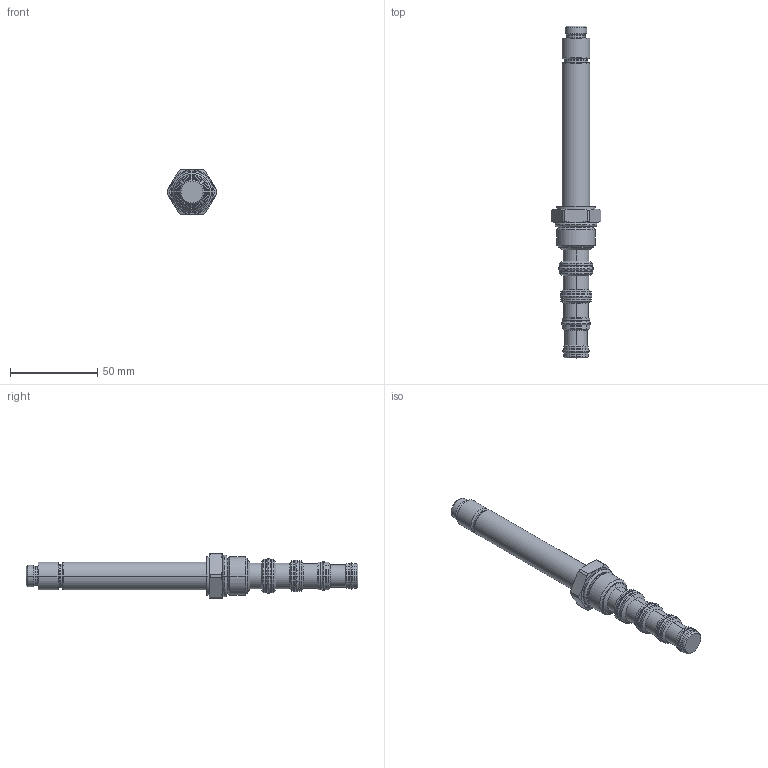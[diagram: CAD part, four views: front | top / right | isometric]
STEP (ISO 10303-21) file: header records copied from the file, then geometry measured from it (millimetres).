
FILE_DESCRIPTION((''),'2;1');
FILE_NAME('5039050_SW0001','2009-02-27T',('JCS'),(''),'PRO/ENGINEER BY PARAMETRIC TECHNOLOGY CORPORATION, 2008010','PRO/ENGINEER BY PARAMETRIC TECHNOLOGY CORPORATION, 2008010','');
FILE_SCHEMA(('CONFIG_CONTROL_DESIGN'));
Length unit declared in the file: inch
Products named in the file (1): 5039050_SW0001
Bounding box: 28.57 x 190.53 x 25.4 mm (x, y, z)
Volume: 41780.4 mm3; surface area: 14802.7 mm2
Topology: 10 solids, 10 shells, 260 faces, 542 edges, 306 vertices
Faces by surface type: cylinder 90, cone 68, revolution 40, torus 32, plane 30
Entity records: 7576 total; most frequent: CARTESIAN_POINT 1896, DIRECTION 1278, ORIENTED_EDGE 1084, EDGE_CURVE 542, AXIS2_PLACEMENT_3D 540, CIRCLE 320, VERTEX_POINT 306, EDGE_LOOP 282
